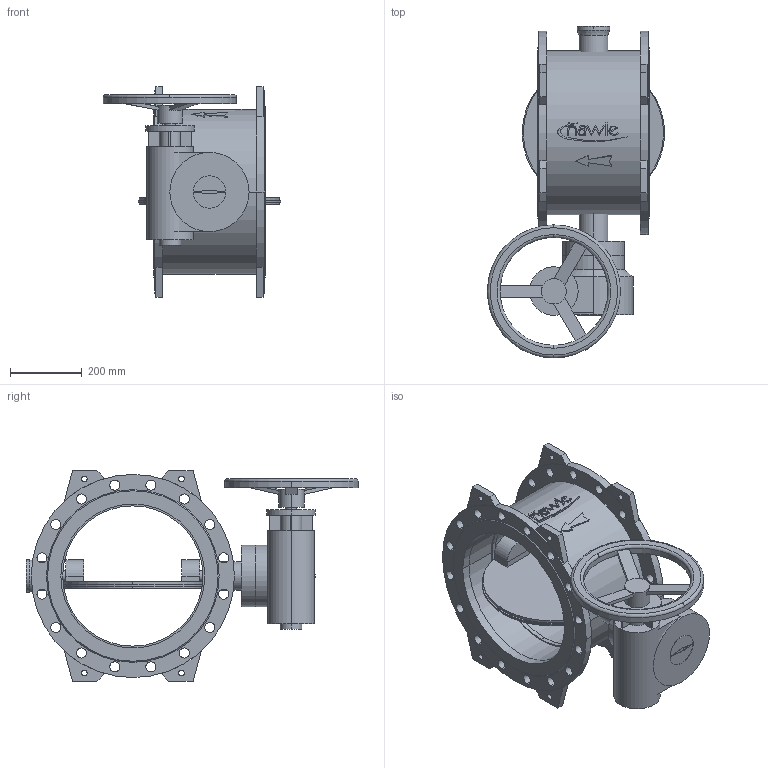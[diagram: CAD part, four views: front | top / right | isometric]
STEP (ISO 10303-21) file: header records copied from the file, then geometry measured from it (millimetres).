
FILE_DESCRIPTION(('STEP AP214'),'1');
FILE_NAME('S:/EK/USER/CAT6/3DHomepage_27-04-2012/neu_08-01-2013/9881K/9881K_PN10_DN400_7800.STP','2013-02-26T15:36:43',(' '),(' '),'Spatial InterOp 3D',' ',' ');
FILE_SCHEMA(('automotive_design'));
Length unit declared in the file: millimetre
Products named in the file (49): 3D-Objekt
Bounding box: 493 x 923 x 586 mm (x, y, z)
Volume: 33143216.3 mm3; surface area: 2929565.2 mm2
Topology: 49 solids, 49 shells, 413 faces, 938 edges, 626 vertices
Faces by surface type: plane 214, cylinder 187, cone 8, torus 4
Entity records: 16377 total; most frequent: DIRECTION 2282, CARTESIAN_POINT 2026, ORIENTED_EDGE 1876, EDGE_CURVE 938, AXIS2_PLACEMENT_3D 882, VERTEX_POINT 626, LINE 518, VECTOR 518
